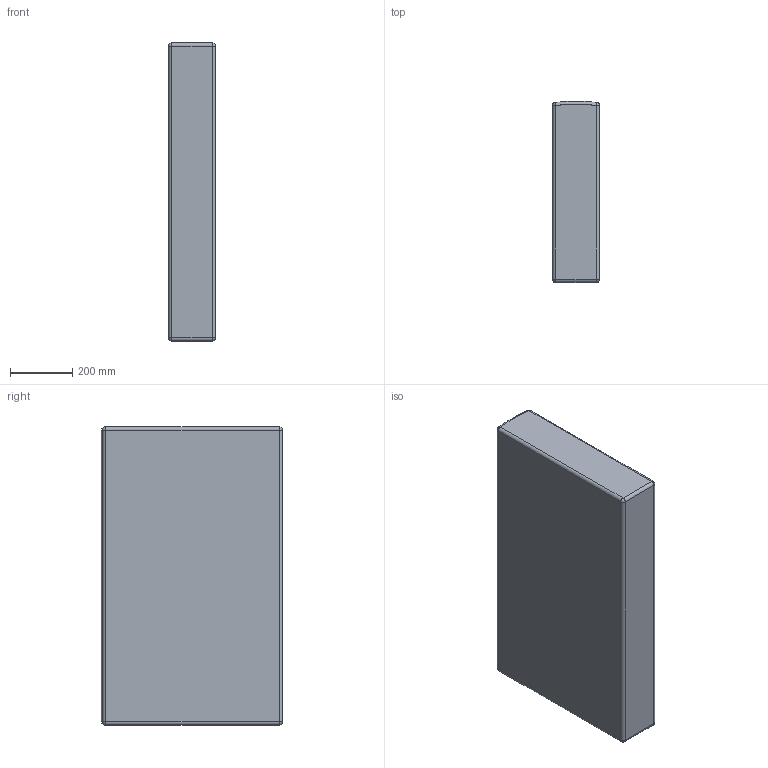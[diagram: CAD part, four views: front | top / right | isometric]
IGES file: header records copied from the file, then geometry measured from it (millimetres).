
Start section: SolidWorks IGES file using NURBS representation for surfaces
Global section: file name: G:\VICCARBE\PRODUCTOS\18-BERRY\04-MODELADOS (PLANOS)\SOLIDWORKS\ELEMENTOS\VICCARBE_Berry_BEB15.IGS; native system: SolidWorks 2009; preprocessor: SolidWorks 2009; author: RUBEN; date: 110902.094733; units: millimetre
Bounding box: 150 x 579.69 x 955 mm (x, y, z)
Surface area: 1531936.9 mm2 (no closed solid volume)
Topology: 0 solids, 0 shells, 26 faces, 110 edges, 102 vertices
Faces by surface type: bspline 26
